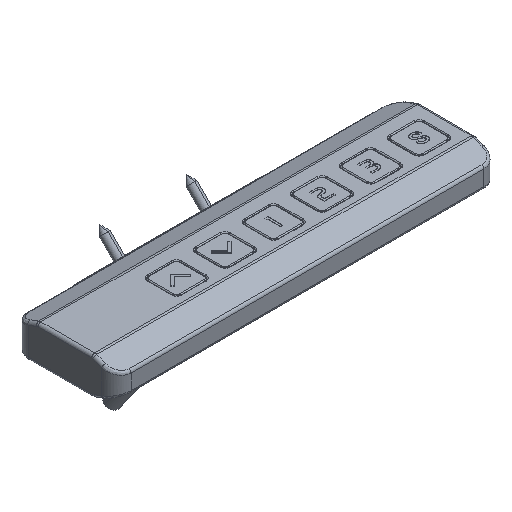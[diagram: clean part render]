
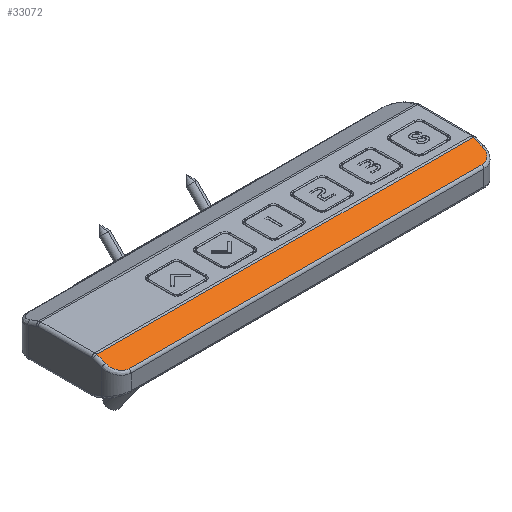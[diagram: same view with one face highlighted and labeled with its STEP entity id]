
A CAD part, isometric view. The second image highlights one B-rep face of the part: STEP entity #33072.
In plain terms, the highlighted planar face has unit normal (0, -0.351, 0.936).
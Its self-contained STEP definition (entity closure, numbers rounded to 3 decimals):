
#6921=DIRECTION('',(1.,0.,0.));
#6922=VECTOR('',#6921,120.);
#6923=CARTESIAN_POINT('',(-60.,-16.851,
12.243));
#6924=LINE('',#6923,#6922);
#7112=DIRECTION('',(0.,-0.936,-0.351));
#7113=VECTOR('',#7112,3.216);
#7114=CARTESIAN_POINT('',(64.,-9.84,14.873));
#7115=LINE('',#7114,#7113);
#7116=CARTESIAN_POINT('',(64.,-12.851,13.743));
#7117=CARTESIAN_POINT('',(64.,-13.36,13.552));
#7118=CARTESIAN_POINT('',(63.804,-14.38,13.17));
#7119=CARTESIAN_POINT('',(62.947,-15.707,12.672));
#7120=CARTESIAN_POINT('',(61.616,-16.629,12.327));
#7121=CARTESIAN_POINT('',(60.538,-16.851,12.243));
#7122=CARTESIAN_POINT('',(60.,-16.851,12.243));
#7124=CARTESIAN_POINT('',(-60.,-16.851,
12.243));
#7125=CARTESIAN_POINT('',(-60.538,-16.851,
12.243));
#7126=CARTESIAN_POINT('',(-61.616,-16.629,
12.327));
#7127=CARTESIAN_POINT('',(-62.947,-15.707,
12.672));
#7128=CARTESIAN_POINT('',(-63.804,-14.38,
13.17));
#7129=CARTESIAN_POINT('',(-64.,-13.36,
13.552));
#7130=CARTESIAN_POINT('',(-64.,-12.851,
13.743));
#7132=DIRECTION('',(0.,0.936,0.351));
#7133=VECTOR('',#7132,3.216);
#7134=CARTESIAN_POINT('',(-64.,-12.851,
13.743));
#7135=LINE('',#7134,#7133);
#7136=DIRECTION('',(1.,0.,0.));
#7137=VECTOR('',#7136,128.);
#7138=CARTESIAN_POINT('',(-64.,-9.84,14.873));
#7139=LINE('',#7138,#7137);
#22343=CARTESIAN_POINT('',(-64.,-9.84,14.873));
#22344=VERTEX_POINT('',#22343);
#22347=CARTESIAN_POINT('',(64.,-9.84,14.873));
#22348=VERTEX_POINT('',#22347);
#22349=CARTESIAN_POINT('',(64.,-12.851,13.743));
#22350=VERTEX_POINT('',#22349);
#23572=CARTESIAN_POINT('',(-64.,-12.851,
13.743));
#23573=VERTEX_POINT('',#23572);
#23574=VERTEX_POINT('',#7122);
#23575=VERTEX_POINT('',#7124);
#33059=CARTESIAN_POINT('',(0.,-13.345,13.558));
#33060=DIRECTION('',(0.,-0.351,0.936));
#33061=DIRECTION('',(0.,0.936,0.351));
#33062=AXIS2_PLACEMENT_3D('',#33059,#33060,#33061);
#33063=PLANE('',#33062);
#33064=ORIENTED_EDGE('',*,*,#32725,.T.);
#33065=ORIENTED_EDGE('',*,*,#32775,.T.);
#33066=ORIENTED_EDGE('',*,*,#32789,.F.);
#33067=ORIENTED_EDGE('',*,*,#32839,.T.);
#33068=ORIENTED_EDGE('',*,*,#32853,.T.);
#33069=ORIENTED_EDGE('',*,*,#33052,.T.);
#33070=EDGE_LOOP('',(#33064,#33065,#33066,#33067,#33068,#33069));
#33071=FACE_OUTER_BOUND('',#33070,.F.);
#33072=ADVANCED_FACE('',(#33071),#33063,.T.);
#7123=B_SPLINE_CURVE_WITH_KNOTS('',3,(#7116,#7117,#7118,#7119,#7120,#7121,
#7122),.UNSPECIFIED.,.F.,.F.,(4,1,1,1,4),(0.,0.25,0.5,0.75,1.),
.UNSPECIFIED.);
#7131=B_SPLINE_CURVE_WITH_KNOTS('',3,(#7124,#7125,#7126,#7127,#7128,#7129,
#7130),.UNSPECIFIED.,.F.,.F.,(4,1,1,1,4),(0.,0.25,0.5,0.75,1.),
.UNSPECIFIED.);
#32725=EDGE_CURVE('',#22348,#22350,#7115,.T.);
#32775=EDGE_CURVE('',#22350,#23574,#7123,.T.);
#32789=EDGE_CURVE('',#23575,#23574,#6924,.T.);
#32839=EDGE_CURVE('',#23575,#23573,#7131,.T.);
#32853=EDGE_CURVE('',#23573,#22344,#7135,.T.);
#33052=EDGE_CURVE('',#22344,#22348,#7139,.T.);
